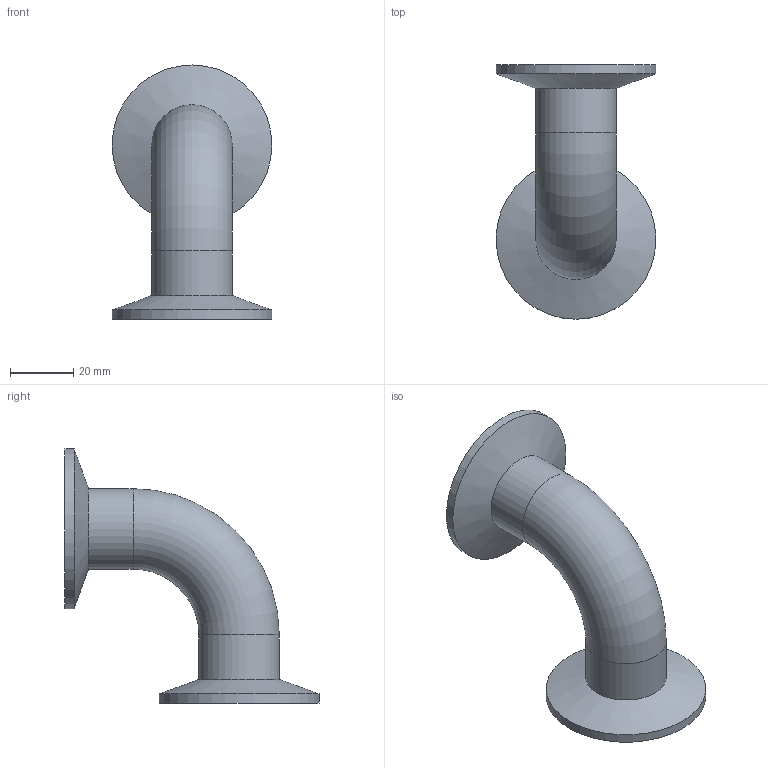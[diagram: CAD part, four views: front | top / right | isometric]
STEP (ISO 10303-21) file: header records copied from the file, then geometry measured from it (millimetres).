
FILE_DESCRIPTION(/* description */ ('ＯＳＵ'),/* implementation_level */ '2;1');
FILE_NAME(/* name */ 'C:\Users\Fujimoto-s\OneDrive\Inventor\WorkSpace\\X2\305D306E4ED6\X0\\ホームページ用\\X2\30C030A630F330ED30FC30C97D206750\X0\\サニタリー継手\EL-2C-1.0S-316L\EL-2C-1.0S-316L.stp',/* time_stamp */ '2024-08-09T09:32:07+09:00',/* author */ ('Fujimoto-s'),/* organization */ (''),/* preprocessor_version */ 'ST-DEVELOPER v15.2',/* originating_system */ 'Autodesk Inventor 2014',/* authorisation */ '');
FILE_SCHEMA (('AUTOMOTIVE_DESIGN { 1 0 10303 214 3 1 1 }'));
Length unit declared in the file: millimetre
Products named in the file (1): EL-2C-1.0S-316L
Bounding box: 50.5 x 80.25 x 80.25 mm (x, y, z)
Volume: 23333.6 mm3; surface area: 20619.6 mm2
Topology: 1 solids, 1 shells, 12 faces, 24 edges, 14 vertices
Faces by surface type: cylinder 6, cone 2, torus 2, plane 2
Full cylindrical faces by diameter (mm): 23 x2, 25.4 x2, 50.5 x2
Entity records: 272 total; most frequent: DIRECTION 50, CARTESIAN_POINT 37, AXIS2_PLACEMENT_3D 25, EDGE_LOOP 24, ORIENTED_EDGE 24, FACE_BOUND 12, FACE_OUTER_BOUND 12, CIRCLE 12
